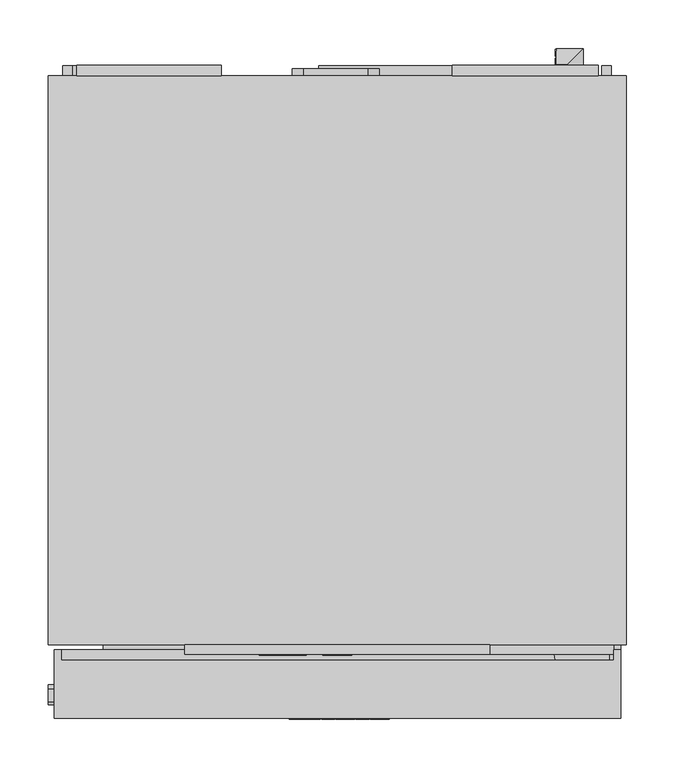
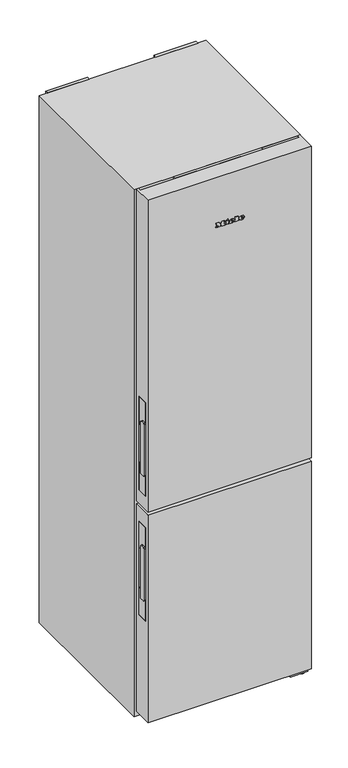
"""IFC4 building model written with IfcOpenShell, lengths in millimetres: proxy geometry, 12551120_OER_KFN4898A-10D_BS : 38489802_OER_12551120_KFN4898A-10D_BS."""

from ifc_helpers import new_model, si_unit, point, frame, frame_2d, origin, origin_with_axes, place, context, project, spatial, polyline, circle_curve, ellipse_curve, trimmed, segment, composite_curve, outline, extrude, faceted_brep, source, transform, mapped, element, save
from ifc_brep_helpers import plane_surface, cylinder_surface, revolved_surface, extruded_surface, advanced_brep


def specialty_equipment_0567a321(model_context):
    return source(origin(), model_context, "Body", "SolidModel", [
        advanced_brep(
        [(42.14, -675.5, 1829.3160092), (42.14, -675.5, 1831.0330092), (53.513, -675.5, 1831.0330092), (33.725, -675.5, 1831.0330092), (38.4, -675.5, 1825.2870092), (53.224, -675.5, 1829.3160092), (48.09, -675.5, 1829.3160092), (44.044, -675.5, 1827.4120092), (42.14, -675.5, 1833.2090092), (42.14, -675.5, 1835.0620092), (45.047, -675.5, 1835.0620092), (45.047, -675.5, 1833.2090092), (42.14, -674.5, 1829.3160092), (44.044, -674.5, 1827.4120092), (48.09, -674.5, 1829.3160092), (53.224, -674.5, 1829.3160092), (38.4, -674.5, 1825.2870092), (33.725, -674.5, 1831.0330092), (53.513, -674.5, 1831.0330092), (42.14, -674.5, 1831.0330092), (42.14, -674.5, 1833.2090092), (45.047, -674.5, 1833.2090092), (45.047, -674.5, 1835.0620092), (42.14, -674.5, 1835.0620092)],
        [
            (0, 1),
            (1, 2),
            (2, 3, ellipse_curve(frame((43.619, -675.5, 1831.0330092), z_axis=(0.0, -1.0, 0.0), x_axis=(-1.0, 0.0, 0.0)), 9.894, 8.177)),
            (3, 4, circle_curve(frame((40.3040927, -675.5, 1831.6110092), z_axis=(0.0, -1.0, 0.0), x_axis=(0.0, 0.0, -1.0)), 6.6044337)),
            (4, 5, circle_curve(frame((43.4209364, -675.5, 1836.0990092), z_axis=(0.0, -1.0, 0.0), x_axis=(0.0, 0.0, -1.0)), 11.9209541)),
            (5, 6),
            (6, 7, circle_curve(frame((44.875, -675.5, 1830.8970092), z_axis=(0.0, 1.0, 0.0), x_axis=(0.0, 0.0, -1.0)), 3.5827065)),
            (7, 0, circle_curve(frame((44.044, -675.5, 1829.3160092), z_axis=(0.0, 1.0, 0.0), x_axis=(0.0, 0.0, -1.0)), 1.904)),
            (8, 9),
            (9, 10, circle_curve(frame((43.5935, -675.5, 1835.0620092), z_axis=(0.0, 1.0, 0.0), x_axis=(0.0, 0.0, -1.0)), 1.4535)),
            (10, 11),
            (11, 8),
            (12, 13, circle_curve(frame((44.044, -674.5, 1829.3160092), z_axis=(0.0, -1.0, 0.0), x_axis=(0.0, 0.0, -1.0)), 1.904)),
            (13, 14, circle_curve(frame((44.875, -674.5, 1830.8970092), z_axis=(0.0, -1.0, 0.0), x_axis=(0.0, 0.0, -1.0)), 3.5827065)),
            (14, 15),
            (15, 16, circle_curve(frame((43.4209364, -674.5, 1836.0990092), z_axis=(0.0, 1.0, 0.0), x_axis=(0.0, 0.0, -1.0)), 11.9209541)),
            (16, 17, circle_curve(frame((40.3040927, -674.5, 1831.6110092), z_axis=(0.0, 1.0, 0.0), x_axis=(0.0, 0.0, -1.0)), 6.6044337)),
            (17, 18, ellipse_curve(frame((43.619, -674.5, 1831.0330092), z_axis=(0.0, 1.0, 0.0), x_axis=(-1.0, 0.0, 0.0)), 9.894, 8.177)),
            (18, 19),
            (19, 12),
            (20, 21),
            (21, 22),
            (22, 23, circle_curve(frame((43.5935, -674.5, 1835.0620092), z_axis=(0.0, -1.0, 0.0), x_axis=(0.0, 0.0, -1.0)), 1.4535)),
            (23, 20),
            (0, 12),
            (19, 1),
            (18, 2),
            (5, 15),
            (14, 6),
            (17, 3),
            (13, 7),
            (16, 4),
            (8, 20),
            (23, 9),
            (22, 10),
            (21, 11),
        ],
        [
            plane_surface(frame((42.14, -675.5, 1831.0330092), z_axis=(0.0, -1.0, 0.0), x_axis=(0.0, 0.0, 1.0))),
            plane_surface(frame((42.14, -674.5, 1831.0330092), z_axis=(0.0, 1.0, 0.0), x_axis=(0.0, 0.0, -1.0))),
            plane_surface(frame((42.14, -675.5, 1829.3160092), z_axis=(1.0, 0.0, 0.0), x_axis=(0.0, 1.0, 0.0))),
            plane_surface(frame((42.14, -675.5, 1831.0330092), z_axis=(0.0, 0.0, -1.0), x_axis=(0.0, 1.0, 0.0))),
            plane_surface(frame((53.224, -675.5, 1829.3160092), z_axis=(0.0, 0.0, 1.0), x_axis=(0.0, 1.0, 0.0))),
            extruded_surface(trimmed(ellipse_curve(frame((43.619, -673.5, 1831.0330092), z_axis=(0.0, -1.0, 0.0), x_axis=(-1.0, 0.0, 0.0)), 9.894, 8.177), [point((53.513, -673.5, 1831.0330092))], [point((33.725, -673.5, 1831.0330092))], True, "CARTESIAN"), (0.0, -1.0, 0.0), 1.0),
            revolved_surface(polyline([(44.875, -674.5, 1827.3143026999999), (44.875, -675.5, 1827.3143026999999)]), (44.875, -674.5, 1830.8970092), (0.0, 1.0, 0.0)),
            revolved_surface(polyline([(44.044, -674.5, 1827.4120092), (44.044, -675.5, 1827.4120092)]), (44.044, -674.5, 1829.3160092), (0.0, 1.0, 0.0)),
            cylinder_surface(frame((40.3040927, -674.5, 1831.6110092), z_axis=(0.0, -1.0, 0.0), x_axis=(0.0, 0.0, -1.0)), 6.6044337),
            cylinder_surface(frame((43.4209364, -674.5, 1836.0990092), z_axis=(0.0, -1.0, 0.0), x_axis=(0.0, 0.0, -1.0)), 11.9209541),
            plane_surface(frame((42.14, -675.5, 1833.2090092), z_axis=(1.0, 0.0, 0.0), x_axis=(0.0, 1.0, 0.0))),
            revolved_surface(polyline([(43.5935, -674.5, 1833.6085091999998), (43.5935, -675.5, 1833.6085091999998)]), (43.5935, -674.5, 1835.0620092), (0.0, 1.0, 0.0)),
            plane_surface(frame((45.047, -675.5, 1835.0620092), z_axis=(-1.0, 0.0, 0.0), x_axis=(0.0, 1.0, 0.0))),
            plane_surface(frame((45.047, -675.5, 1833.2090092), z_axis=(0.0, 0.0, 1.0), x_axis=(0.0, 1.0, 0.0))),
        ],
        [
            (0, [[1, 2, 3, 4, 5, 6, 7, 8], [9, 10, 11, 12]]),
            (1, [[13, 14, 15, 16, 17, 18, 19, 20], [21, 22, 23, 24]]),
            (2, [[-1, 25, -20, 26]]),
            (3, [[-2, -26, -19, 27]]),
            (4, [[-6, 28, -15, 29]]),
            (5, [[-3, -27, -18, 30]]),
            (6, [[-7, -29, -14, 31]]),
            (7, [[-8, -31, -13, -25]]),
            (8, [[-4, -30, -17, 32]]),
            (9, [[-5, -32, -16, -28]]),
            (10, [[-9, 33, -24, 34]]),
            (11, [[-10, -34, -23, 35]]),
            (12, [[-11, -35, -22, 36]]),
            (13, [[-12, -36, -21, -33]]),
        ],
    ),
        advanced_brep(
        [(6.661, -675.5, 1829.3160092), (6.661, -675.5, 1831.0330092), (18.034, -675.5, 1831.0330092), (-1.754, -675.5, 1831.0330092), (2.921, -675.5, 1825.2870092), (17.745, -675.5, 1829.3160092), (12.611, -675.5, 1829.3160092), (8.565, -675.5, 1827.4120092), (6.661, -675.5, 1833.2090092), (6.661, -675.5, 1835.0620092), (9.568, -675.5, 1835.0620092), (9.568, -675.5, 1833.2090092), (6.661, -674.5, 1829.3160092), (8.565, -674.5, 1827.4120092), (12.611, -674.5, 1829.3160092), (17.745, -674.5, 1829.3160092), (2.921, -674.5, 1825.2870092), (-1.754, -674.5, 1831.0330092), (18.034, -674.5, 1831.0330092), (6.661, -674.5, 1831.0330092), (6.661, -674.5, 1833.2090092), (9.568, -674.5, 1833.2090092), (9.568, -674.5, 1835.0620092), (6.661, -674.5, 1835.0620092)],
        [
            (0, 1),
            (1, 2),
            (2, 3, ellipse_curve(frame((8.14, -675.5, 1831.0330092), z_axis=(0.0, -1.0, 0.0), x_axis=(-1.0, 0.0, 0.0)), 9.894, 8.177)),
            (3, 4, circle_curve(frame((4.8250927, -675.5, 1831.6110092), z_axis=(0.0, -1.0, 0.0), x_axis=(0.0, 0.0, -1.0)), 6.6044337)),
            (4, 5, circle_curve(frame((7.9419364, -675.5, 1836.0990092), z_axis=(0.0, -1.0, 0.0), x_axis=(0.0, 0.0, -1.0)), 11.9209541)),
            (5, 6),
            (6, 7, circle_curve(frame((9.396, -675.5, 1830.8970092), z_axis=(0.0, 1.0, 0.0), x_axis=(0.0, 0.0, -1.0)), 3.5827065)),
            (7, 0, circle_curve(frame((8.565, -675.5, 1829.3160092), z_axis=(0.0, 1.0, 0.0), x_axis=(0.0, 0.0, -1.0)), 1.904)),
            (8, 9),
            (9, 10, circle_curve(frame((8.1145, -675.5, 1835.0620092), z_axis=(0.0, 1.0, 0.0), x_axis=(0.0, 0.0, -1.0)), 1.4535)),
            (10, 11),
            (11, 8),
            (12, 13, circle_curve(frame((8.565, -674.5, 1829.3160092), z_axis=(0.0, -1.0, 0.0), x_axis=(0.0, 0.0, -1.0)), 1.904)),
            (13, 14, circle_curve(frame((9.396, -674.5, 1830.8970092), z_axis=(0.0, -1.0, 0.0), x_axis=(0.0, 0.0, -1.0)), 3.5827065)),
            (14, 15),
            (15, 16, circle_curve(frame((7.9419364, -674.5, 1836.0990092), z_axis=(0.0, 1.0, 0.0), x_axis=(0.0, 0.0, -1.0)), 11.9209541)),
            (16, 17, circle_curve(frame((4.8250927, -674.5, 1831.6110092), z_axis=(0.0, 1.0, 0.0), x_axis=(0.0, 0.0, -1.0)), 6.6044337)),
            (17, 18, ellipse_curve(frame((8.14, -674.5, 1831.0330092), z_axis=(0.0, 1.0, 0.0), x_axis=(-1.0, 0.0, 0.0)), 9.894, 8.177)),
            (18, 19),
            (19, 12),
            (20, 21),
            (21, 22),
            (22, 23, circle_curve(frame((8.1145, -674.5, 1835.0620092), z_axis=(0.0, -1.0, 0.0), x_axis=(0.0, 0.0, -1.0)), 1.4535)),
            (23, 20),
            (0, 12),
            (19, 1),
            (18, 2),
            (5, 15),
            (14, 6),
            (17, 3),
            (13, 7),
            (16, 4),
            (8, 20),
            (23, 9),
            (22, 10),
            (21, 11),
        ],
        [
            plane_surface(frame((6.661, -675.5, 1831.0330092), z_axis=(0.0, -1.0, 0.0), x_axis=(0.0, 0.0, 1.0))),
            plane_surface(frame((6.661, -674.5, 1831.0330092), z_axis=(0.0, 1.0, 0.0), x_axis=(0.0, 0.0, -1.0))),
            plane_surface(frame((6.661, -675.5, 1829.3160092), z_axis=(1.0, 0.0, 0.0), x_axis=(0.0, 1.0, 0.0))),
            plane_surface(frame((6.661, -675.5, 1831.0330092), z_axis=(0.0, 0.0, -1.0), x_axis=(0.0, 1.0, 0.0))),
            plane_surface(frame((17.745, -675.5, 1829.3160092), z_axis=(0.0, 0.0, 1.0), x_axis=(0.0, 1.0, 0.0))),
            extruded_surface(trimmed(ellipse_curve(frame((8.14, -673.5, 1831.0330092), z_axis=(0.0, -1.0, 0.0), x_axis=(-1.0, 0.0, 0.0)), 9.894, 8.177), [point((18.034, -673.5, 1831.0330092))], [point((-1.754, -673.5, 1831.0330092))], True, "CARTESIAN"), (0.0, -1.0, 0.0), 1.0),
            revolved_surface(polyline([(9.396, -674.5, 1827.3143026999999), (9.396, -675.5, 1827.3143026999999)]), (9.396, -674.5, 1830.8970092), (0.0, 1.0, 0.0)),
            revolved_surface(polyline([(8.565, -674.5, 1827.4120092), (8.565, -675.5, 1827.4120092)]), (8.565, -674.5, 1829.3160092), (0.0, 1.0, 0.0)),
            cylinder_surface(frame((4.8250927, -674.5, 1831.6110092), z_axis=(0.0, -1.0, 0.0), x_axis=(0.0, 0.0, -1.0)), 6.6044337),
            cylinder_surface(frame((7.9419364, -674.5, 1836.0990092), z_axis=(0.0, -1.0, 0.0), x_axis=(0.0, 0.0, -1.0)), 11.9209541),
            plane_surface(frame((6.661, -675.5, 1833.2090092), z_axis=(1.0, 0.0, 0.0), x_axis=(0.0, 1.0, 0.0))),
            revolved_surface(polyline([(8.1145, -674.5, 1833.6085091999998), (8.1145, -675.5, 1833.6085091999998)]), (8.1145, -674.5, 1835.0620092), (0.0, 1.0, 0.0)),
            plane_surface(frame((9.568, -675.5, 1835.0620092), z_axis=(-1.0, 0.0, 0.0), x_axis=(0.0, 1.0, 0.0))),
            plane_surface(frame((9.568, -675.5, 1833.2090092), z_axis=(0.0, 0.0, 1.0), x_axis=(0.0, 1.0, 0.0))),
        ],
        [
            (0, [[1, 2, 3, 4, 5, 6, 7, 8], [9, 10, 11, 12]]),
            (1, [[13, 14, 15, 16, 17, 18, 19, 20], [21, 22, 23, 24]]),
            (2, [[-1, 25, -20, 26]]),
            (3, [[-2, -26, -19, 27]]),
            (4, [[-6, 28, -15, 29]]),
            (5, [[-3, -27, -18, 30]]),
            (6, [[-7, -29, -14, 31]]),
            (7, [[-8, -31, -13, -25]]),
            (8, [[-4, -30, -17, 32]]),
            (9, [[-5, -32, -16, -28]]),
            (10, [[-9, 33, -24, 34]]),
            (11, [[-10, -34, -23, 35]]),
            (12, [[-11, -35, -22, 36]]),
            (13, [[-12, -36, -21, -33]]),
        ],
    ),
        extrude(outline(polyline([(1841.2840092, -11.92), (1838.5300092, -10.628), (1841.2160092, -4.865), (1843.9700092, -6.14), (1841.2840092, -11.92)])), frame((0.0, -675.5, 0.0), z_axis=(0.0, 1.0, 0.0), x_axis=(0.0, 0.0, 1.0)), (0.0, 0.0, 1.0), 1.0),
        extrude(outline(polyline([(1838.1560092, -16.119), (1835.1130092, -16.119), (1835.1130092, -14.096), (1828.1430092, -14.096), (1828.1430092, -16.119), (1825.2870092, -16.119), (1825.2870092, -2.706), (1828.1430092, -2.706), (1828.1430092, -4.678), (1838.1560092, -4.678), (1838.1560092, -16.119)])), frame((0.0, -675.5, 0.0), z_axis=(0.0, 1.0, 0.0), x_axis=(0.0, 0.0, 1.0)), (0.0, 0.0, 1.0), 1.0),
        extrude(outline(polyline([(1839.5160092, 18.986), (1839.5160092, 21.026), (1828.1430092, 21.026), (1828.1430092, 18.986), (1825.2870092, 18.986), (1825.2870092, 32.773), (1828.1430092, 32.773), (1828.1430092, 30.682), (1842.2870092, 30.682), (1842.2870092, 18.986), (1839.5160092, 18.986)])), frame((0.0, -675.5, 0.0), z_axis=(0.0, 1.0, 0.0), x_axis=(0.0, 0.0, 1.0)), (0.0, 0.0, 1.0), 1.0),
        extrude(outline(polyline([(1839.5160092, -50.0), (1839.5160092, -47.943), (1828.1430092, -47.943), (1828.1430092, -50.0), (1825.2870092, -50.0), (1825.2870092, -42.52), (1828.1430092, -42.52), (1828.1430092, -44.56), (1835.317134, -44.56), (1825.2870092, -36.961), (1835.7272315, -29.328), (1828.1430092, -29.328), (1828.1430092, -31.419), (1825.2870092, -31.419), (1825.2870092, -17.853), (1828.1430092, -17.853), (1828.1430092, -20.012), (1839.5160092, -20.012), (1839.5160092, -17.853), (1842.2870092, -17.853), (1842.2870092, -28.206), (1835.9120092, -33.17), (1842.2870092, -38.151), (1842.2870092, -50.0), (1839.5160092, -50.0)])), frame((0.0, -675.5, 0.0), z_axis=(0.0, 1.0, 0.0), x_axis=(0.0, 0.0, 1.0)), (0.0, 0.0, 1.0), 1.0),
        advanced_brep(
        [(-37.64, -609.5, 1987.896), (-37.64, -609.5, 1988.704), (-32.288, -609.5, 1988.704), (-41.6, -609.5, 1988.704), (-39.4, -609.5, 1986.0), (-32.424, -609.5, 1987.896), (-34.84, -609.5, 1987.896), (-36.744, -609.5, 1987.0), (-37.64, -609.5, 1989.728), (-37.64, -609.5, 1990.6), (-36.272, -609.5, 1990.6), (-36.272, -609.5, 1989.728), (-37.64, -608.5, 1987.896), (-36.744, -608.5, 1987.0), (-34.84, -608.5, 1987.896), (-32.424, -608.5, 1987.896), (-39.4, -608.5, 1986.0), (-41.6, -608.5, 1988.704), (-32.288, -608.5, 1988.704), (-37.64, -608.5, 1988.704), (-37.64, -608.5, 1989.728), (-36.272, -608.5, 1989.728), (-36.272, -608.5, 1990.6), (-37.64, -608.5, 1990.6)],
        [
            (0, 1),
            (1, 2),
            (2, 3, ellipse_curve(frame((-36.944, -609.5, 1988.704), z_axis=(0.0, -1.0, 0.0), x_axis=(-1.0, 0.0, 0.0)), 4.656, 3.848)),
            (3, 4, circle_curve(frame((-38.5039564, -609.5, 1988.976), z_axis=(0.0, -1.0, 0.0), x_axis=(0.0, 0.0, -1.0)), 3.1079688)),
            (4, 5, circle_curve(frame((-37.0372064, -609.5, 1991.088), z_axis=(0.0, -1.0, 0.0), x_axis=(0.0, 0.0, -1.0)), 5.6098607)),
            (5, 6),
            (6, 7, circle_curve(frame((-36.3529412, -609.5, 1988.64), z_axis=(0.0, 1.0, 0.0), x_axis=(0.0, 0.0, -1.0)), 1.6859795)),
            (7, 0, circle_curve(frame((-36.744, -609.5, 1987.896), z_axis=(0.0, 1.0, 0.0), x_axis=(0.0, 0.0, -1.0)), 0.896)),
            (8, 9),
            (9, 10, circle_curve(frame((-36.956, -609.5, 1990.6), z_axis=(0.0, 1.0, 0.0), x_axis=(0.0, 0.0, -1.0)), 0.684)),
            (10, 11),
            (11, 8),
            (12, 13, circle_curve(frame((-36.744, -608.5, 1987.896), z_axis=(0.0, -1.0, 0.0), x_axis=(0.0, 0.0, -1.0)), 0.896)),
            (13, 14, circle_curve(frame((-36.3529412, -608.5, 1988.64), z_axis=(0.0, -1.0, 0.0), x_axis=(0.0, 0.0, -1.0)), 1.6859795)),
            (14, 15),
            (15, 16, circle_curve(frame((-37.0372064, -608.5, 1991.088), z_axis=(0.0, 1.0, 0.0), x_axis=(0.0, 0.0, -1.0)), 5.6098607)),
            (16, 17, circle_curve(frame((-38.5039564, -608.5, 1988.976), z_axis=(0.0, 1.0, 0.0), x_axis=(0.0, 0.0, -1.0)), 3.1079688)),
            (17, 18, ellipse_curve(frame((-36.944, -608.5, 1988.704), z_axis=(0.0, 1.0, 0.0), x_axis=(-1.0, 0.0, 0.0)), 4.656, 3.848)),
            (18, 19),
            (19, 12),
            (20, 21),
            (21, 22),
            (22, 23, circle_curve(frame((-36.956, -608.5, 1990.6), z_axis=(0.0, -1.0, 0.0), x_axis=(0.0, 0.0, -1.0)), 0.684)),
            (23, 20),
            (0, 12),
            (19, 1),
            (18, 2),
            (5, 15),
            (14, 6),
            (17, 3),
            (13, 7),
            (16, 4),
            (8, 20),
            (23, 9),
            (22, 10),
            (21, 11),
        ],
        [
            plane_surface(frame((-37.64, -609.5, 1988.704), z_axis=(0.0, -1.0, 0.0), x_axis=(0.0, 0.0, 1.0))),
            plane_surface(frame((-37.64, -608.5, 1988.704), z_axis=(0.0, 1.0, 0.0), x_axis=(0.0, 0.0, -1.0))),
            plane_surface(frame((-37.64, -609.5, 1987.896), z_axis=(1.0, 0.0, 0.0), x_axis=(0.0, 1.0, 0.0))),
            plane_surface(frame((-37.64, -609.5, 1988.704), z_axis=(0.0, 0.0, -1.0), x_axis=(0.0, 1.0, 0.0))),
            plane_surface(frame((-32.424, -609.5, 1987.896), z_axis=(0.0, 0.0, 1.0), x_axis=(0.0, 1.0, 0.0))),
            extruded_surface(trimmed(ellipse_curve(frame((-36.944, -607.5, 1988.704), z_axis=(0.0, -1.0, 0.0), x_axis=(-1.0, 0.0, 0.0)), 4.656, 3.848), [point((-32.288, -607.5, 1988.704))], [point((-41.6, -607.5, 1988.704))], True, "CARTESIAN"), (0.0, -1.0, 0.0), 1.0),
            revolved_surface(polyline([(-36.3529412, -608.5, 1986.9540205), (-36.3529412, -609.5, 1986.9540205)]), (-36.3529412, -608.5, 1988.64), (0.0, 1.0, 0.0)),
            revolved_surface(polyline([(-36.744, -608.5, 1987.0), (-36.744, -609.5, 1987.0)]), (-36.744, -608.5, 1987.896), (0.0, 1.0, 0.0)),
            cylinder_surface(frame((-38.5039564, -608.5, 1988.976), z_axis=(0.0, -1.0, 0.0), x_axis=(0.0, 0.0, -1.0)), 3.1079688),
            cylinder_surface(frame((-37.0372064, -608.5, 1991.088), z_axis=(0.0, -1.0, 0.0), x_axis=(0.0, 0.0, -1.0)), 5.6098607),
            plane_surface(frame((-37.64, -609.5, 1989.728), z_axis=(1.0, 0.0, 0.0), x_axis=(0.0, 1.0, 0.0))),
            revolved_surface(polyline([(-36.956, -608.5, 1989.916), (-36.956, -609.5, 1989.916)]), (-36.956, -608.5, 1990.6), (0.0, 1.0, 0.0)),
            plane_surface(frame((-36.272, -609.5, 1990.6), z_axis=(-1.0, 0.0, 0.0), x_axis=(0.0, 1.0, 0.0))),
            plane_surface(frame((-36.272, -609.5, 1989.728), z_axis=(0.0, 0.0, 1.0), x_axis=(0.0, 1.0, 0.0))),
        ],
        [
            (0, [[1, 2, 3, 4, 5, 6, 7, 8], [9, 10, 11, 12]]),
            (1, [[13, 14, 15, 16, 17, 18, 19, 20], [21, 22, 23, 24]]),
            (2, [[-1, 25, -20, 26]]),
            (3, [[-2, -26, -19, 27]]),
            (4, [[-6, 28, -15, 29]]),
            (5, [[-3, -27, -18, 30]]),
            (6, [[-7, -29, -14, 31]]),
            (7, [[-8, -31, -13, -25]]),
            (8, [[-4, -30, -17, 32]]),
            (9, [[-5, -32, -16, -28]]),
            (10, [[-9, 33, -24, 34]]),
            (11, [[-10, -34, -23, 35]]),
            (12, [[-11, -35, -22, 36]]),
            (13, [[-12, -36, -21, -33]]),
        ],
    ),
        advanced_brep(
        [(-54.336, -609.5, 1987.896), (-54.336, -609.5, 1988.704), (-48.984, -609.5, 1988.704), (-58.296, -609.5, 1988.704), (-56.096, -609.5, 1986.0), (-49.12, -609.5, 1987.896), (-51.536, -609.5, 1987.896), (-53.44, -609.5, 1987.0), (-54.336, -609.5, 1989.728), (-54.336, -609.5, 1990.6), (-52.968, -609.5, 1990.6), (-52.968, -609.5, 1989.728), (-54.336, -608.5, 1987.896), (-53.44, -608.5, 1987.0), (-51.536, -608.5, 1987.896), (-49.12, -608.5, 1987.896), (-56.096, -608.5, 1986.0), (-58.296, -608.5, 1988.704), (-48.984, -608.5, 1988.704), (-54.336, -608.5, 1988.704), (-54.336, -608.5, 1989.728), (-52.968, -608.5, 1989.728), (-52.968, -608.5, 1990.6), (-54.336, -608.5, 1990.6)],
        [
            (0, 1),
            (1, 2),
            (2, 3, ellipse_curve(frame((-53.64, -609.5, 1988.704), z_axis=(0.0, -1.0, 0.0), x_axis=(-1.0, 0.0, 0.0)), 4.656, 3.848)),
            (3, 4, circle_curve(frame((-55.1999564, -609.5, 1988.976), z_axis=(0.0, -1.0, 0.0), x_axis=(0.0, 0.0, -1.0)), 3.1079688)),
            (4, 5, circle_curve(frame((-53.7332064, -609.5, 1991.088), z_axis=(0.0, -1.0, 0.0), x_axis=(0.0, 0.0, -1.0)), 5.6098607)),
            (5, 6),
            (6, 7, circle_curve(frame((-53.0489412, -609.5, 1988.64), z_axis=(0.0, 1.0, 0.0), x_axis=(0.0, 0.0, -1.0)), 1.6859795)),
            (7, 0, circle_curve(frame((-53.44, -609.5, 1987.896), z_axis=(0.0, 1.0, 0.0), x_axis=(0.0, 0.0, -1.0)), 0.896)),
            (8, 9),
            (9, 10, circle_curve(frame((-53.652, -609.5, 1990.6), z_axis=(0.0, 1.0, 0.0), x_axis=(0.0, 0.0, -1.0)), 0.684)),
            (10, 11),
            (11, 8),
            (12, 13, circle_curve(frame((-53.44, -608.5, 1987.896), z_axis=(0.0, -1.0, 0.0), x_axis=(0.0, 0.0, -1.0)), 0.896)),
            (13, 14, circle_curve(frame((-53.0489412, -608.5, 1988.64), z_axis=(0.0, -1.0, 0.0), x_axis=(0.0, 0.0, -1.0)), 1.6859795)),
            (14, 15),
            (15, 16, circle_curve(frame((-53.7332064, -608.5, 1991.088), z_axis=(0.0, 1.0, 0.0), x_axis=(0.0, 0.0, -1.0)), 5.6098607)),
            (16, 17, circle_curve(frame((-55.1999564, -608.5, 1988.976), z_axis=(0.0, 1.0, 0.0), x_axis=(0.0, 0.0, -1.0)), 3.1079688)),
            (17, 18, ellipse_curve(frame((-53.64, -608.5, 1988.704), z_axis=(0.0, 1.0, 0.0), x_axis=(-1.0, 0.0, 0.0)), 4.656, 3.848)),
            (18, 19),
            (19, 12),
            (20, 21),
            (21, 22),
            (22, 23, circle_curve(frame((-53.652, -608.5, 1990.6), z_axis=(0.0, -1.0, 0.0), x_axis=(0.0, 0.0, -1.0)), 0.684)),
            (23, 20),
            (0, 12),
            (19, 1),
            (18, 2),
            (5, 15),
            (14, 6),
            (17, 3),
            (13, 7),
            (16, 4),
            (8, 20),
            (23, 9),
            (22, 10),
            (21, 11),
        ],
        [
            plane_surface(frame((-54.336, -609.5, 1988.704), z_axis=(0.0, -1.0, 0.0), x_axis=(0.0, 0.0, 1.0))),
            plane_surface(frame((-54.336, -608.5, 1988.704), z_axis=(0.0, 1.0, 0.0), x_axis=(0.0, 0.0, -1.0))),
            plane_surface(frame((-54.336, -609.5, 1987.896), z_axis=(1.0, 0.0, 0.0), x_axis=(0.0, 1.0, 0.0))),
            plane_surface(frame((-54.336, -609.5, 1988.704), z_axis=(0.0, 0.0, -1.0), x_axis=(0.0, 1.0, 0.0))),
            plane_surface(frame((-49.12, -609.5, 1987.896), z_axis=(0.0, 0.0, 1.0), x_axis=(0.0, 1.0, 0.0))),
            extruded_surface(trimmed(ellipse_curve(frame((-53.64, -607.5, 1988.704), z_axis=(0.0, -1.0, 0.0), x_axis=(-1.0, 0.0, 0.0)), 4.656, 3.848), [point((-48.984, -607.5, 1988.704))], [point((-58.296, -607.5, 1988.704))], True, "CARTESIAN"), (0.0, -1.0, 0.0), 1.0),
            revolved_surface(polyline([(-53.0489412, -608.5, 1986.9540205), (-53.0489412, -609.5, 1986.9540205)]), (-53.0489412, -608.5, 1988.64), (0.0, 1.0, 0.0)),
            revolved_surface(polyline([(-53.44, -608.5, 1987.0), (-53.44, -609.5, 1987.0)]), (-53.44, -608.5, 1987.896), (0.0, 1.0, 0.0)),
            cylinder_surface(frame((-55.1999564, -608.5, 1988.976), z_axis=(0.0, -1.0, 0.0), x_axis=(0.0, 0.0, -1.0)), 3.1079688),
            cylinder_surface(frame((-53.7332064, -608.5, 1991.088), z_axis=(0.0, -1.0, 0.0), x_axis=(0.0, 0.0, -1.0)), 5.6098607),
            plane_surface(frame((-54.336, -609.5, 1989.728), z_axis=(1.0, 0.0, 0.0), x_axis=(0.0, 1.0, 0.0))),
            revolved_surface(polyline([(-53.652, -608.5, 1989.916), (-53.652, -609.5, 1989.916)]), (-53.652, -608.5, 1990.6), (0.0, 1.0, 0.0)),
            plane_surface(frame((-52.968, -609.5, 1990.6), z_axis=(-1.0, 0.0, 0.0), x_axis=(0.0, 1.0, 0.0))),
            plane_surface(frame((-52.968, -609.5, 1989.728), z_axis=(0.0, 0.0, 1.0), x_axis=(0.0, 1.0, 0.0))),
        ],
        [
            (0, [[1, 2, 3, 4, 5, 6, 7, 8], [9, 10, 11, 12]]),
            (1, [[13, 14, 15, 16, 17, 18, 19, 20], [21, 22, 23, 24]]),
            (2, [[-1, 25, -20, 26]]),
            (3, [[-2, -26, -19, 27]]),
            (4, [[-6, 28, -15, 29]]),
            (5, [[-3, -27, -18, 30]]),
            (6, [[-7, -29, -14, 31]]),
            (7, [[-8, -31, -13, -25]]),
            (8, [[-4, -30, -17, 32]]),
            (9, [[-5, -32, -16, -28]]),
            (10, [[-9, 33, -24, 34]]),
            (11, [[-10, -34, -23, 35]]),
            (12, [[-11, -35, -22, 36]]),
            (13, [[-12, -36, -21, -33]]),
        ],
    ),
        extrude(outline(polyline([(1993.528, -63.08), (1992.232, -62.472), (1993.496, -59.76), (1994.792, -60.36), (1993.528, -63.08)])), frame((0.0, -609.5, 0.0), z_axis=(0.0, 1.0, 0.0), x_axis=(0.0, 0.0, 1.0)), (0.0, 0.0, 1.0), 1.0),
        extrude(outline(polyline([(1992.056, -65.056), (1990.624, -65.056), (1990.624, -64.104), (1987.344, -64.104), (1987.344, -65.056), (1986.0, -65.056), (1986.0, -58.744), (1987.344, -58.744), (1987.344, -59.672), (1992.056, -59.672), (1992.056, -65.056)])), frame((0.0, -609.5, 0.0), z_axis=(0.0, 1.0, 0.0), x_axis=(0.0, 0.0, 1.0)), (0.0, 0.0, 1.0), 1.0),
        extrude(outline(polyline([(1992.696, -48.536), (1992.696, -47.576), (1987.344, -47.576), (1987.344, -48.536), (1986.0, -48.536), (1986.0, -42.048), (1987.344, -42.048), (1987.344, -43.032), (1994.0, -43.032), (1994.0, -48.536), (1992.696, -48.536)])), frame((0.0, -609.5, 0.0), z_axis=(0.0, 1.0, 0.0), x_axis=(0.0, 0.0, 1.0)), (0.0, 0.0, 1.0), 1.0),
        extrude(outline(polyline([(1992.696, -81.0), (1992.696, -80.032), (1987.344, -80.032), (1987.344, -81.0), (1986.0, -81.0), (1986.0, -77.48), (1987.344, -77.48), (1987.344, -78.44), (1990.7471247, -78.44), (1986.0, -74.864), (1990.8152223, -71.272), (1987.344, -71.272), (1987.344, -72.256), (1986.0, -72.256), (1986.0, -65.872), (1987.344, -65.872), (1987.344, -66.888), (1992.696, -66.888), (1992.696, -65.872), (1994.0, -65.872), (1994.0, -70.744), (1991.0, -73.08), (1994.0, -75.424), (1994.0, -81.0), (1992.696, -81.0)])), frame((0.0, -609.5, 0.0), z_axis=(0.0, 1.0, 0.0), x_axis=(0.0, 0.0, 1.0)), (0.0, 0.0, 1.0), 1.0),
        extrude(outline(polyline([(15.0, -609.5), (-15.0, -609.5), (-15.0, -606.5), (15.0, -606.5), (15.0, -609.5)])), frame((0.0, 0.0, 1972.0), z_axis=(0.0, 0.0, 1.0), x_axis=(1.0, 0.0, 0.0)), (0.0, 0.0, 1.0), 28.0),
        extrude(outline(polyline([(2005.5, 105.0), (2005.5, -105.0), (1966.5, -105.0), (1966.5, 105.0), (2005.5, 105.0)]), holes=[polyline([(2000.0, -15.0), (2000.0, 15.0), (1972.0, 15.0), (1972.0, -15.0), (2000.0, -15.0)])]), frame((0.0, -608.5, 0.0), z_axis=(0.0, 1.0, 0.0), x_axis=(0.0, 0.0, 1.0)), (0.0, 0.0, 1.0), 2.0),
        faceted_brep([(157.5, -598.5, 1962.0), (157.5, -608.5, 1962.0), (-157.5, -608.5, 1962.0), (-157.5, -598.5, 1962.0), (157.5, -598.5, 2010.0), (-157.5, -598.5, 2010.0), (-157.5, -608.5, 2010.0), (157.5, -608.5, 2010.0), (-105.0, -608.5, 2005.5), (105.0, -608.5, 2005.5), (105.0, -608.5, 1966.5), (-105.0, -608.5, 1966.5), (105.0, -606.5, 2005.5), (-105.0, -606.5, 2005.5), (-105.0, -606.5, 1966.5), (105.0, -606.5, 1966.5)], [[[0, 1, 2, 3]], [[4, 5, 6, 7]], [[0, 3, 5, 4]], [[3, 2, 6, 5]], [[2, 1, 7, 6], [8, 9, 10, 11]], [[1, 0, 4, 7]], [[12, 13, 14, 15]], [[13, 12, 9, 8]], [[14, 13, 8, 11]], [[15, 14, 11, 10]], [[12, 15, 10, 9]]]),
        extrude(outline(polyline([(282.8810028, -10.5), (272.8810028, -10.5), (272.8810028, 0.0), (282.8810028, 0.0), (282.8810028, -10.5)])), frame((0.0, 0.0, 237.8679319), z_axis=(0.0, 0.0, 1.0), x_axis=(1.0, 0.0, 0.0)), (0.0, 0.0, 1.0), 20.0),
        extrude(outline(polyline([(-273.8280905, -10.5), (-283.8280905, -10.5), (-283.8280905, 0.0), (-273.8280905, 0.0), (-273.8280905, -10.5)])), frame((0.0, 0.0, 238.6137901), z_axis=(0.0, 0.0, 1.0), x_axis=(1.0, 0.0, 0.0)), (0.0, 0.0, 1.0), 20.0),
        extrude(outline(composite_curve([segment(trimmed(circle_curve(frame_2d((840.8612688, -34.7533113)), 12.0), [point((852.8612688, -34.7533113))], [point((840.8612688, -46.7533113))], False, "CARTESIAN"), True, "CONTINUOUS"), segment(polyline([(840.8612688, -46.7533113), (814.8612688, -46.7533113)]), True, "CONTINUOUS"), segment(trimmed(circle_curve(frame_2d((814.8612688, -34.7533113)), 12.0), [point((814.8612688, -46.7533113))], [point((802.8612688, -34.7533113))], False, "CARTESIAN"), True, "CONTINUOUS"), segment(polyline([(802.8612688, -34.7533113), (802.8612688, 31.2466887)]), True, "CONTINUOUS"), segment(trimmed(circle_curve(frame_2d((814.8612688, 31.2466887)), 12.0), [point((802.8612688, 31.2466887))], [point((814.8612688, 43.2466887))], False, "CARTESIAN"), True, "CONTINUOUS"), segment(polyline([(814.8612688, 43.2466887), (840.8612688, 43.2466887)]), True, "CONTINUOUS"), segment(trimmed(circle_curve(frame_2d((840.8612688, 31.2466887)), 12.0), [point((840.8612688, 43.2466887))], [point((852.8612688, 31.2466887))], False, "CARTESIAN"), True, "CONTINUOUS"), segment(polyline([(852.8612688, 31.2466887), (852.8612688, -34.7533113)]), True, "CONTINUOUS")], self_intersect=False)), frame((0.0, -10.5, 0.0), z_axis=(0.0, 1.0, 0.0), x_axis=(0.0, 0.0, 1.0)), (0.0, 0.0, 1.0), 7.0),
        extrude(outline(polyline([(151.5, -10.5), (-19.5, -10.5), (-19.5, 0.0), (151.5, 0.0), (151.5, -10.5)])), frame((0.0, 0.0, 64.0), z_axis=(0.0, 0.0, 1.0), x_axis=(1.0, 0.0, 0.0)), (0.0, 0.0, 1.0), 96.0),
        extrude(outline(polyline([(-135.5, -10.5), (-274.5, -10.5), (-274.5, 0.0), (-135.5, 0.0), (-135.5, -10.5)])), frame((0.0, 0.0, 64.0), z_axis=(0.0, 0.0, 1.0), x_axis=(1.0, 0.0, 0.0)), (0.0, 0.0, 1.0), 96.0),
        extrude(outline(polyline([(269.5372046, -10.5), (118.7052435, -10.5), (118.7052435, 0.0), (269.5372046, 0.0), (269.5372046, -10.5)])), frame((0.0, 0.0, 1986.0), z_axis=(0.0, 0.0, 1.0), x_axis=(1.0, 0.0, 0.0)), (0.0, 0.0, 1.0), 24.0),
        extrude(outline(polyline([(-119.8489664, -10.5), (-269.5372046, -10.5), (-269.5372046, 0.0), (-119.8489664, 0.0), (-119.8489664, -10.5)])), frame((0.0, 0.0, 1986.0), z_axis=(0.0, 0.0, 1.0), x_axis=(1.0, 0.0, 0.0)), (0.0, 0.0, 1.0), 24.0),
        extrude(outline(composite_curve([segment(trimmed(circle_curve(frame_2d((-247.5, -584.5103704)), 10.0), [point((-257.5, -584.5103704))], [point((-237.5, -584.5103704))], False, "CARTESIAN"), True, "CONTINUOUS"), segment(trimmed(circle_curve(frame_2d((-247.5, -584.5103704)), 10.0), [point((-237.5, -584.5103704))], [point((-257.5, -584.5103704))], False, "CARTESIAN"), True, "CONTINUOUS")], self_intersect=False)), origin_with_axes(), (0.0, 0.0, 1.0), 15.0),
        extrude(outline(composite_curve([segment(trimmed(circle_curve(frame_2d((247.5, -584.4761218)), 10.0), [point((237.5, -584.4761218))], [point((257.5, -584.4761218))], False, "CARTESIAN"), True, "CONTINUOUS"), segment(trimmed(circle_curve(frame_2d((247.5, -584.4761218)), 10.0), [point((257.5, -584.4761218))], [point((237.5, -584.4761218))], False, "CARTESIAN"), True, "CONTINUOUS")], self_intersect=False)), origin_with_axes(), (0.0, 0.0, 1.0), 15.0),
        extrude(outline(polyline([(271.8948956, -31.0417683), (271.8948956, -529.6387407), (-271.8948956, -529.6387407), (-271.8948956, -31.0417683), (271.8948956, -31.0417683)])), frame((0.0, 0.0, 5.0), z_axis=(0.0, 0.0, 1.0), x_axis=(1.0, 0.0, 0.0)), (0.0, 0.0, 1.0), 10.0),
        faceted_brep([(298.5, -10.5, 2010.0), (-298.5, -10.5, 2010.0), (-298.5, -598.5, 2010.0), (298.5, -598.5, 2010.0), (298.5, -10.5, 15.0), (298.5, -598.5, 15.0), (-298.5, -598.5, 15.0), (-298.5, -10.5, 15.0), (-240.0, -598.5, 1945.0), (240.0, -598.5, 1945.0), (240.0, -598.5, 848.0), (-240.0, -598.5, 848.0), (-240.0, -598.5, 800.0), (240.0, -598.5, 800.0), (240.0, -598.5, 165.0), (-240.0, -598.5, 165.0), (-240.0, -71.5, 1945.0), (240.0, -71.5, 1945.0), (240.0, -71.5, 848.0), (-240.0, -71.5, 848.0), (-240.0, -71.5, 800.0), (240.0, -71.5, 800.0), (240.0, -71.5, 165.0), (-240.0, -71.5, 165.0)], [[[0, 1, 2, 3]], [[4, 5, 6, 7]], [[1, 0, 4, 7]], [[2, 1, 7, 6]], [[3, 2, 6, 5], [8, 9, 10, 11], [12, 13, 14, 15]], [[0, 3, 5, 4]], [[16, 17, 9, 8]], [[18, 19, 11, 10]], [[17, 16, 19, 18]], [[19, 16, 8, 11]], [[17, 18, 10, 9]], [[20, 21, 13, 12]], [[22, 23, 15, 14]], [[21, 20, 23, 22]], [[23, 20, 12, 15]], [[21, 22, 14, 13]]]),
        extrude(outline(polyline([(-43.4087271, 0.0), (-57.6632757, 0.0), (-61.1643134, 5.0), (-41.0771888, 5.0), (-43.4087271, 0.0)])), frame((248.5, 0.0, 0.0), z_axis=(1.0, 0.0, 0.0), x_axis=(0.0, 1.0, 0.0)), (0.0, 0.0, 1.0), 15.0),
        extrude(outline(polyline([(-43.4087271, 0.0), (-57.6632757, 0.0), (-61.1643134, 5.0), (-41.0771888, 5.0), (-43.4087271, 0.0)])), frame((-263.5, 0.0, 0.0), z_axis=(1.0, 0.0, 0.0), x_axis=(0.0, 1.0, 0.0)), (0.0, 0.0, 1.0), 15.0),
        extrude(outline(polyline([(16.8772603, 142.0), (9.5, 142.0), (9.5, 143.2557039), (15.6215564, 143.2557039), (15.6215564, 146.5519266), (9.970889, 146.5519266), (9.970889, 147.8076304), (15.6215564, 147.8076304), (15.6215564, 150.7899271), (9.656963, 150.7899271), (9.656963, 152.045631), (16.8772603, 152.045631), (16.8772603, 142.0)])), frame((224.9201307, 0.0, 0.0), z_axis=(1.0, 0.0, 0.0), x_axis=(0.0, 1.0, 0.0)), (0.0, 0.0, 1.0), 1.0),
        extrude(outline(polyline([(7.6164442, 142.0), (1.3379248, 142.0), (1.3379248, 143.2557039), (6.3607403, 143.2557039), (6.3607403, 152.045631), (7.6164442, 152.045631), (7.6164442, 142.0)])), frame((224.9201307, 0.0, 0.0), z_axis=(1.0, 0.0, 0.0), x_axis=(0.0, 1.0, 0.0)), (0.0, 0.0, 1.0), 1.0),
        advanced_brep(
        [(253.9201307, -10.5, 147.0), (237.9201307, -10.5, 147.0), (253.9201307, 17.5, 147.0), (237.9201307, 1.5, 147.0), (225.9201307, 17.5, 147.0), (225.9201307, 1.5, 147.0)],
        [
            (0, 1, circle_curve(frame((245.9201307, -10.5, 147.0), z_axis=(0.0, -1.0, 0.0), x_axis=(-1.0, 0.0, 0.0)), 8.0)),
            (1, 0, circle_curve(frame((245.9201307, -10.5, 147.0), z_axis=(0.0, -1.0, 0.0), x_axis=(-1.0, 0.0, 0.0)), 8.0)),
            (0, 2),
            (2, 3, ellipse_curve(frame((245.9201307, 9.5, 147.0), z_axis=(0.7071067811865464, -0.7071067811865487, 0.0), x_axis=(-0.7071067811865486, -0.7071067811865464, 0.0)), 11.3137085, 8.0)),
            (3, 1),
            (3, 2, ellipse_curve(frame((245.9201307, 9.5, 147.0), z_axis=(0.7071067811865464, -0.7071067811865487, 0.0), x_axis=(-0.7071067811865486, -0.7071067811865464, 0.0)), 11.3137085, 8.0)),
            (4, 5, circle_curve(frame((225.9201307, 9.5, 147.0), z_axis=(-1.0, 0.0, 0.0), x_axis=(0.0, -1.0, 0.0)), 8.0)),
            (5, 4, circle_curve(frame((225.9201307, 9.5, 147.0), z_axis=(-1.0, 0.0, 0.0), x_axis=(0.0, -1.0, 0.0)), 8.0)),
            (2, 4),
            (5, 3),
        ],
        [
            plane_surface(frame((245.9201307, -10.5, 0.0), z_axis=(0.0, -1.0, 0.0), x_axis=(0.0, 0.0, 1.0))),
            cylinder_surface(frame((245.9201307, -10.5, 147.0), z_axis=(0.0, -1.0, 0.0), x_axis=(-1.0, 0.0, 0.0)), 8.0),
            plane_surface(frame((225.9201307, 9.5, 0.0), z_axis=(-1.0, 0.0, 0.0), x_axis=(0.0, 0.0, 1.0))),
            cylinder_surface(frame((245.9201307, 9.5, 147.0), z_axis=(1.0, 0.0, 0.0), x_axis=(0.0, -1.0, 0.0)), 8.0),
        ],
        [
            (0, [[1, 2]]),
            (1, [[-1, 3, 4, 5]]),
            (1, [[-2, -5, 6, -3]]),
            (2, [[7, 8]]),
            (3, [[-4, 9, -8, 10]]),
            (3, [[-6, -10, -7, -9]]),
        ],
    ),
        extrude(outline(polyline([(-124.5, 15.0), (-80.5, 15.0), (-93.0864945, 0.0), (-111.9135055, 0.0), (-124.5, 15.0)])), frame((-288.5, 0.0, 0.0), z_axis=(1.0, 0.0, 0.0), x_axis=(0.0, 1.0, 0.0)), (0.0, 0.0, 1.0), 16.6051044),
        extrude(outline(polyline([(-124.5, 15.0), (-80.5, 15.0), (-93.0864945, 0.0), (-111.9135055, 0.0), (-124.5, 15.0)])), frame((271.8948956, 0.0, 0.0), z_axis=(1.0, 0.0, 0.0), x_axis=(0.0, 1.0, 0.0)), (0.0, 0.0, 1.0), 16.6051044),
        extrude(outline(composite_curve([segment(trimmed(circle_curve(frame_2d((277.5815065, -642.6308064)), 7.0), [point((270.5815065, -642.6308064))], [point((284.5815065, -642.6308064))], False, "CARTESIAN"), True, "CONTINUOUS"), segment(trimmed(circle_curve(frame_2d((277.5815065, -642.6308064)), 7.0), [point((284.5815065, -642.6308064))], [point((270.5815065, -642.6308064))], False, "CARTESIAN"), True, "CONTINUOUS")], self_intersect=False)), frame((0.0, 0.0, 8.0), z_axis=(0.0, 0.0, 1.0), x_axis=(1.0, 0.0, 0.0)), (0.0, 0.0, 1.0), 11.0),
        extrude(outline(polyline([(291.9120137, -660.5), (227.4892238, -660.5), (227.4892238, -603.5), (291.9120137, -603.5), (291.9120137, -660.5)])), frame((0.0, 0.0, 32.0), z_axis=(0.0, 0.0, 1.0), x_axis=(1.0, 0.0, 0.0)), (0.0, 0.0, 1.0), 4.0),
        extrude(outline(composite_curve([segment(trimmed(circle_curve(frame_2d((-644.5, 686.0)), 5.0), [point((-644.5, 691.0))], [point((-639.5, 686.0))], False, "CARTESIAN"), True, "CONTINUOUS"), segment(polyline([(-639.5, 686.0), (-639.5, 492.0)]), True, "CONTINUOUS"), segment(trimmed(circle_curve(frame_2d((-642.5, 492.0)), 3.0), [point((-639.5, 492.0))], [point((-642.5, 489.0))], False, "CARTESIAN"), True, "CONTINUOUS"), segment(polyline([(-642.5, 489.0), (-656.8402531, 489.0)]), True, "CONTINUOUS"), segment(trimmed(circle_curve(frame_2d((-656.8402531, 492.0)), 3.0), [point((-656.8402531, 489.0))], [point((-659.8402531, 492.0))], False, "CARTESIAN"), True, "CONTINUOUS"), segment(polyline([(-659.8402531, 492.0), (-659.8402531, 688.0)]), True, "CONTINUOUS"), segment(trimmed(circle_curve(frame_2d((-656.8402531, 688.0)), 3.0), [point((-659.8402531, 688.0))], [point((-656.8402531, 691.0))], False, "CARTESIAN"), True, "CONTINUOUS"), segment(polyline([(-656.8402531, 691.0), (-644.5, 691.0)]), True, "CONTINUOUS")], self_intersect=False)), frame((-298.5896195, 0.0, 0.0), z_axis=(1.0, 0.0, 0.0), x_axis=(0.0, 1.0, 0.0)), (0.0, 0.0, 1.0), 6.0896195),
        extrude(outline(composite_curve([segment(polyline([(-619.1597469, 766.511034), (-619.1597469, 666.511034), (-636.5, 666.511034)]), True, "CONTINUOUS"), segment(trimmed(circle_curve(frame_2d((-636.5, 663.511034)), 3.0), [point((-636.5, 666.511034))], [point((-639.5, 663.511034))], True, "CARTESIAN"), True, "CONTINUOUS"), segment(polyline([(-639.5, 663.511034), (-639.5, 518.6922635)]), True, "CONTINUOUS"), segment(trimmed(circle_curve(frame_2d((-636.5, 518.6922635)), 3.0), [point((-639.5, 518.6922635))], [point((-636.5, 515.6922635))], True, "CARTESIAN"), True, "CONTINUOUS"), segment(polyline([(-636.5, 515.6922635), (-619.1597469, 515.6922635), (-619.1597469, 412.0), (-659.8402531, 412.0), (-659.8402531, 766.511034), (-619.1597469, 766.511034)]), True, "CONTINUOUS")], self_intersect=False)), frame((-292.5, 0.0, 0.0), z_axis=(1.0, 0.0, 0.0), x_axis=(0.0, 1.0, 0.0)), (0.0, 0.0, 1.0), 22.0),
        extrude(outline(composite_curve([segment(trimmed(circle_curve(frame_2d((-644.5, 1156.745412)), 5.0), [point((-644.5, 1161.745412))], [point((-639.5, 1156.745412))], False, "CARTESIAN"), True, "CONTINUOUS"), segment(polyline([(-639.5, 1156.745412), (-639.5, 964.745412)]), True, "CONTINUOUS"), segment(trimmed(circle_curve(frame_2d((-642.5, 964.745412)), 3.0), [point((-639.5, 964.745412))], [point((-642.5, 961.745412))], False, "CARTESIAN"), True, "CONTINUOUS"), segment(polyline([(-642.5, 961.745412), (-657.1805062, 961.745412)]), True, "CONTINUOUS"), segment(trimmed(circle_curve(frame_2d((-657.1805062, 964.745412)), 3.0), [point((-657.1805062, 961.745412))], [point((-660.1805062, 964.745412))], False, "CARTESIAN"), True, "CONTINUOUS"), segment(polyline([(-660.1805062, 964.745412), (-660.1805062, 1158.745412)]), True, "CONTINUOUS"), segment(trimmed(circle_curve(frame_2d((-657.1805062, 1158.745412)), 3.0), [point((-660.1805062, 1158.745412))], [point((-657.1805062, 1161.745412))], False, "CARTESIAN"), True, "CONTINUOUS"), segment(polyline([(-657.1805062, 1161.745412), (-644.5, 1161.745412)]), True, "CONTINUOUS")], self_intersect=False)), frame((-298.5896195, 0.0, 0.0), z_axis=(1.0, 0.0, 0.0), x_axis=(0.0, 1.0, 0.0)), (0.0, 0.0, 1.0), 6.0896195),
        extrude(outline(composite_curve([segment(polyline([(-619.5, 1239.0), (-619.5, 1135.0), (-636.5, 1135.0)]), True, "CONTINUOUS"), segment(trimmed(circle_curve(frame_2d((-636.5, 1132.0)), 3.0), [point((-636.5, 1135.0))], [point((-639.5, 1132.0))], True, "CARTESIAN"), True, "CONTINUOUS"), segment(polyline([(-639.5, 1132.0), (-639.5, 991.6922635)]), True, "CONTINUOUS"), segment(trimmed(circle_curve(frame_2d((-636.5, 991.6922635)), 3.0), [point((-639.5, 991.6922635))], [point((-636.5, 988.6922635))], True, "CARTESIAN"), True, "CONTINUOUS"), segment(polyline([(-636.5, 988.6922635), (-619.5, 988.6922635), (-619.5, 885.0), (-660.1805062, 885.0), (-660.1805062, 1239.0), (-619.5, 1239.0)]), True, "CONTINUOUS")], self_intersect=False)), frame((-292.5, 0.0, 0.0), z_axis=(1.0, 0.0, 0.0), x_axis=(0.0, 1.0, 0.0)), (0.0, 0.0, 1.0), 22.0),
        faceted_brep([(292.5, -674.5, 2014.0), (-292.5, -674.5, 2014.0), (-292.5, -674.5, 834.0), (292.5, -674.5, 834.0), (190.0, -660.3426016, 2009.0), (283.0, -660.3426016, 2009.0), (283.0, -660.3426016, 1964.0), (190.0, -660.3426016, 1964.0), (-270.5, -660.1805062, 1239.0), (-270.5, -660.1805062, 885.0), (-292.5, -660.1805062, 885.0), (-292.5, -660.1805062, 1239.0), (283.0, -614.5, 2009.0), (283.0, -614.5, 1964.0), (190.0, -614.5, 2009.0), (-270.5, -619.5, 885.0), (-270.5, -619.5, 1239.0), (190.0, -614.5, 1964.0), (-292.5, -619.5, 1239.0), (-292.5, -619.5, 885.0), (292.5, -603.5, 2014.0), (292.5, -603.5, 834.0), (-292.5, -603.5, 834.0), (-292.5, -603.5, 2014.0), (-285.5, -603.5, 2014.0), (-285.5, -603.5, 1959.0), (285.5, -603.5, 1959.0), (285.5, -603.5, 2014.0), (285.5, -614.5, 2014.0), (-285.5, -614.5, 2014.0), (285.5, -614.5, 1959.0), (-285.5, -614.5, 1959.0)], [[[0, 1, 2, 3]], [[4, 5, 6, 7]], [[8, 9, 10, 11]], [[6, 5, 12, 13]], [[5, 4, 14, 12]], [[15, 9, 8, 16]], [[7, 6, 13, 17]], [[15, 16, 18, 19]], [[20, 21, 22, 23, 24, 25, 26, 27]], [[1, 0, 20, 27, 28, 29, 24, 23]], [[2, 1, 23, 22], [19, 18, 11, 10]], [[3, 2, 22, 21]], [[0, 3, 21, 20]], [[26, 30, 28, 27]], [[30, 31, 29, 28], [14, 17, 13, 12]], [[30, 26, 25, 31]], [[4, 7, 17, 14]], [[31, 25, 24, 29]], [[16, 8, 11, 18]], [[9, 15, 19, 10]]]),
        advanced_brep(
        [(292.5, -674.5, 822.0), (-292.5, -674.5, 822.0), (-292.5, -674.5, 36.0), (292.5, -674.5, 36.0), (292.5, -603.5, 822.0), (292.5, -603.5, 36.0), (222.5, -603.5, 36.0), (222.5, -603.5, 66.0), (-222.5, -603.5, 66.0), (-222.5, -603.5, 36.0), (-292.5, -603.5, 36.0), (-292.5, -603.5, 822.0), (-292.5, -659.8402531, 766.511034), (-292.5, -659.8402531, 412.0), (-292.5, -619.1597469, 412.0), (-292.5, -619.1597469, 766.511034), (-222.5, -629.5062261, 36.0), (222.5, -629.5062261, 36.0), (222.5, -617.5, 66.0), (-222.5, -617.5, 66.0), (-256.7419151, -619.1597469, 766.511034), (-256.7419151, -659.8402531, 766.511034), (-256.7419151, -619.1597469, 412.0), (-256.7419151, -659.8402531, 412.0)],
        [
            (0, 1),
            (1, 2),
            (2, 3),
            (3, 0),
            (4, 5),
            (5, 6),
            (6, 7),
            (7, 8),
            (8, 9),
            (9, 10),
            (10, 11),
            (11, 4),
            (0, 4),
            (11, 1),
            (10, 2),
            (12, 13),
            (13, 14),
            (14, 15),
            (15, 12),
            (9, 16),
            (16, 17),
            (17, 6),
            (5, 3),
            (18, 7),
            (17, 18, circle_curve(frame((222.5, -612.8834964, 46.7499494), z_axis=(-1.0, 0.0, 0.0), x_axis=(0.0, 1.0, 0.0)), 19.7958722)),
            (19, 16, circle_curve(frame((-222.5, -612.8834964, 46.7499494), z_axis=(1.0, 0.0, 0.0), x_axis=(0.0, 1.0, 0.0)), 19.7958722)),
            (8, 19),
            (19, 18),
            (20, 21),
            (21, 12),
            (15, 20),
            (20, 22),
            (22, 23),
            (23, 21),
            (23, 13),
            (22, 14),
        ],
        [
            plane_surface(frame((-292.5, -674.5, 822.0), z_axis=(0.0, -1.0, 0.0), x_axis=(-1.0, 0.0, 0.0))),
            plane_surface(frame((-292.5, -603.5, 822.0), z_axis=(0.0, 1.0, 0.0), x_axis=(1.0, 0.0, 0.0))),
            plane_surface(frame((292.5, -674.5, 822.0), z_axis=(0.0, 0.0, 1.0), x_axis=(0.0, 1.0, 0.0))),
            plane_surface(frame((-292.5, -674.5, 822.0), z_axis=(-1.0, 0.0, 0.0), x_axis=(0.0, 1.0, 0.0))),
            plane_surface(frame((-292.5, -674.5, 36.0), z_axis=(0.0, 0.0, -1.0), x_axis=(0.0, 1.0, 0.0))),
            plane_surface(frame((292.5, -674.5, 36.0), z_axis=(1.0, 0.0, 0.0), x_axis=(0.0, 1.0, 0.0))),
            plane_surface(frame((222.5, -593.0876242, 46.7499494), z_axis=(-1.0, 0.0, 0.0), x_axis=(0.0, 0.0, 1.0))),
            plane_surface(frame((-222.5, -593.0876242, 46.7499494), z_axis=(1.0, 0.0, 0.0), x_axis=(0.0, 0.0, -1.0))),
            revolved_surface(polyline([(222.5, -593.0876242, 46.7499494), (-222.5, -593.0876242, 46.7499494)]), (-222.5, -612.8834964, 46.7499494), (1.0, 0.0, 0.0)),
            plane_surface(frame((222.5, -603.5, 66.0), z_axis=(0.0, 0.0, -1.0), x_axis=(-1.0, 0.0, 0.0))),
            plane_surface(frame((-256.7419151, -619.1597469, 766.511034), z_axis=(0.0, 0.0, -1.0), x_axis=(-1.0, 0.0, 0.0))),
            plane_surface(frame((-256.7419151, -659.8402531, 766.511034), z_axis=(-1.0, 0.0, 0.0), x_axis=(0.0, 0.0, -1.0))),
            plane_surface(frame((-256.7419151, -659.8402531, 766.511034), z_axis=(0.0, 1.0, 0.0), x_axis=(-1.0, 0.0, 0.0))),
            plane_surface(frame((-256.7419151, -659.8402531, 412.0), z_axis=(0.0, 0.0, 1.0), x_axis=(-1.0, 0.0, 0.0))),
            plane_surface(frame((-256.7419151, -619.1597469, 412.0), z_axis=(0.0, -1.0, 0.0), x_axis=(-1.0, 0.0, 0.0))),
        ],
        [
            (0, [[1, 2, 3, 4]]),
            (1, [[5, 6, 7, 8, 9, 10, 11, 12]]),
            (2, [[-1, 13, -12, 14]]),
            (3, [[-2, -14, -11, 15], [16, 17, 18, 19]]),
            (4, [[-3, -15, -10, 20, 21, 22, -6, 23]]),
            (5, [[-4, -23, -5, -13]]),
            (6, [[24, -7, -22, 25]]),
            (7, [[26, -20, -9, 27]]),
            (8, [[-25, -21, -26, 28]]),
            (9, [[-24, -28, -27, -8]]),
            (10, [[29, 30, -19, 31]]),
            (11, [[-29, 32, 33, 34]]),
            (12, [[-34, 35, -16, -30]]),
            (13, [[-33, 36, -17, -35]]),
            (14, [[-32, -31, -18, -36]]),
        ],
    ),
        extrude(outline(polyline([(242.0, -603.5), (-242.0, -603.5), (-242.0, -598.5), (242.0, -598.5), (242.0, -603.5)])), frame((0.0, 0.0, 892.0), z_axis=(0.0, 0.0, 1.0), x_axis=(1.0, 0.0, 0.0)), (0.0, 0.0, 1.0), 1053.0),
        extrude(outline(polyline([(242.0, -603.5), (-242.0, -603.5), (-242.0, -598.5), (242.0, -598.5), (242.0, -603.5)])), frame((0.0, 0.0, 121.0), z_axis=(0.0, 0.0, 1.0), x_axis=(1.0, 0.0, 0.0)), (0.0, 0.0, 1.0), 653.0),
        extrude(outline(composite_curve([segment(trimmed(circle_curve(frame_2d((279.5, -642.5)), 10.0), [point((269.5, -642.5))], [point((289.5, -642.5))], False, "CARTESIAN"), True, "CONTINUOUS"), segment(trimmed(circle_curve(frame_2d((279.5, -642.5)), 10.0), [point((289.5, -642.5))], [point((269.5, -642.5))], False, "CARTESIAN"), True, "CONTINUOUS")], self_intersect=False)), frame((0.0, 0.0, 27.0), z_axis=(0.0, 0.0, 1.0), x_axis=(1.0, 0.0, 0.0)), (0.0, 0.0, 1.0), 5.0),
        extrude(outline(composite_curve([segment(trimmed(circle_curve(frame_2d((278.5, -627.5)), 5.0), [point((283.5, -627.5))], [point((273.5, -627.5))], False, "CARTESIAN"), True, "CONTINUOUS"), segment(trimmed(circle_curve(frame_2d((278.5, -627.5)), 5.0), [point((273.5, -627.5))], [point((283.5, -627.5))], False, "CARTESIAN"), True, "CONTINUOUS")], self_intersect=False)), frame((0.0, 0.0, 822.0), z_axis=(0.0, 0.0, 1.0), x_axis=(1.0, 0.0, 0.0)), (0.0, 0.0, 1.0), 12.0),
        extrude(outline(polyline([(292.5, -603.5), (292.5, -640.5), (270.5, -640.5), (270.5, -603.5), (292.5, -603.5)]), holes=[composite_curve([segment(trimmed(circle_curve(frame_2d((278.5, -627.5)), 5.0), [point((273.5, -627.5))], [point((283.5, -627.5))], True, "CARTESIAN"), True, "CONTINUOUS"), segment(trimmed(circle_curve(frame_2d((278.5, -627.5)), 5.0), [point((283.5, -627.5))], [point((273.5, -627.5))], True, "CARTESIAN"), True, "CONTINUOUS")], self_intersect=False)]), frame((0.0, 0.0, 825.5), z_axis=(0.0, 0.0, 1.0), x_axis=(1.0, 0.0, 0.0)), (0.0, 0.0, 1.0), 5.0),
        extrude(outline(polyline([(-598.5, 19.0), (-660.5, 19.0), (-660.5, 27.0), (-603.5, 27.0), (-603.5, 70.0), (-598.5, 70.0), (-598.5, 19.0)])), frame((226.5, 0.0, 0.0), z_axis=(1.0, 0.0, 0.0), x_axis=(0.0, 1.0, 0.0)), (0.0, 0.0, 1.0), 62.0),
        extrude(outline(polyline([(232.8472854, -657.5), (224.2072633, -608.5), (280.5768849, -608.5), (282.3861905, -657.5), (232.8472854, -657.5)])), frame((0.0, 0.0, 1977.6745089), z_axis=(0.0, 0.0, 1.0), x_axis=(1.0, 0.0, 0.0)), (0.0, 0.0, 1.0), 23.7898602),
        extrude(outline(polyline([(292.5, -598.5), (292.5, -603.5), (218.5, -603.5), (218.5, -598.5), (292.5, -598.5)])), frame((0.0, 0.0, 825.5), z_axis=(0.0, 0.0, 1.0), x_axis=(1.0, 0.0, 0.0)), (0.0, 0.0, 1.0), 19.0),
        extrude(outline(polyline([(285.5, -608.5), (157.5, -608.5), (157.5, -598.5), (285.5, -598.5), (285.5, -608.5)])), frame((0.0, 0.0, 1961.0), z_axis=(0.0, 0.0, 1.0), x_axis=(1.0, 0.0, 0.0)), (0.0, 0.0, 1.0), 48.0),
    ])


if __name__ == "__main__":
    model = new_model("IFC4")
    model_context = context("Model", 3, world=origin())
    ifc_project = project(units=[si_unit("LENGTHUNIT", "METRE", prefix="MILLI")], contexts=[model_context])
    site = spatial("IfcSite", under=ifc_project)
    building = spatial("IfcBuilding", under=site)
    placement = place(None, origin())
    specialty_equipment_shape = specialty_equipment_0567a321(model_context)
    element("IfcBuildingElementProxy", 1, Name="12551120_OER_KFN4898A-10D_BS : 38489802_OER_12551120_KFN4898A-10D_BS", ObjectType="12551120_OER_KFN4898A-10D_BS : 38489802_OER_12551120_KFN4898A-10D_BS", at=placement, inside=building, context=model_context, shape_type="MappedRepresentation", body=[
        mapped(specialty_equipment_shape, transform((0.0, 0.0, 0.0), x_axis=(1.0, 0.0, 0.0), y_axis=(0.0, 1.0, 0.0), z_axis=(0.0, 0.0, 1.0))),
    ])
    save(model, "model.ifc")
